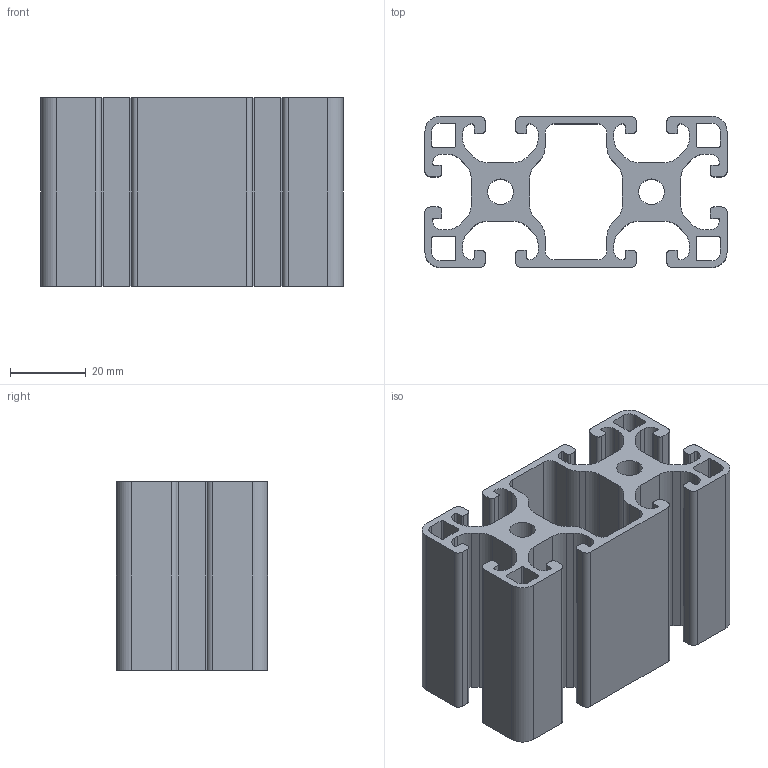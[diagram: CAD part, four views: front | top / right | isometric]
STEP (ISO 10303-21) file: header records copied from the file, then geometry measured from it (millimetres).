
FILE_DESCRIPTION (( 'STEP AP214' ), '1' );
FILE_NAME ('Transept Giltec-P88040L.STEP', '2012-10-01T14:53:34', ( 'SysAdmin' ), ( 'SolidWorks' ), 'SwSTEP 2.0', 'SolidWorks 2012', '' );
FILE_SCHEMA (( 'AUTOMOTIVE_DESIGN' ));
Length unit declared in the file: millimetre
Products named in the file (1): Transept Giltec-P88040L
Bounding box: 80 x 40 x 50 mm (x, y, z)
Volume: 57242.5 mm3; surface area: 40370.2 mm2
Topology: 1 solids, 1 shells, 226 faces, 672 edges, 448 vertices
Faces by surface type: cylinder 120, plane 106
Entity records: 7718 total; most frequent: DIRECTION 1366, CARTESIAN_POINT 1347, ORIENTED_EDGE 1344, EDGE_CURVE 672, AXIS2_PLACEMENT_3D 467, VERTEX_POINT 448, VECTOR 432, LINE 432
